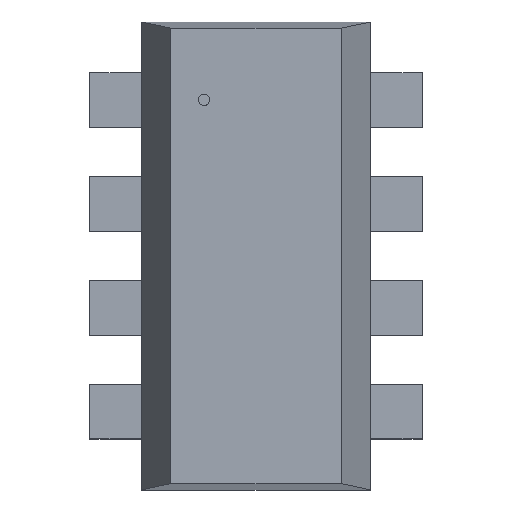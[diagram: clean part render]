
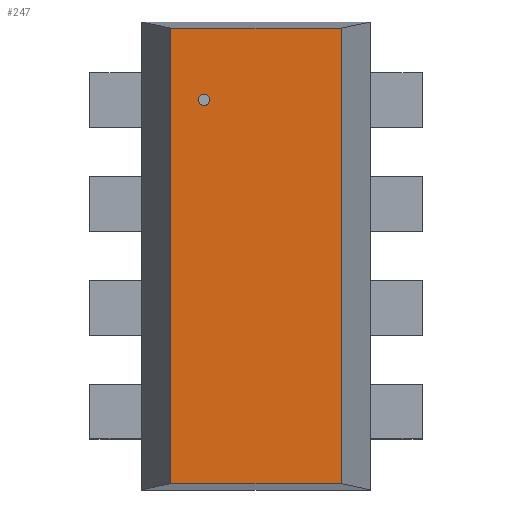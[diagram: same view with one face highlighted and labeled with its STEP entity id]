
A CAD part, top view. The second image highlights one B-rep face of the part: STEP entity #247.
In plain terms, the highlighted planar face has unit normal (0, 0, 1).
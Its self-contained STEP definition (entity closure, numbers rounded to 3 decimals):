
#247=ADVANCED_FACE('',(#253),#248,.T.);
#248=PLANE('',#249);
#249=AXIS2_PLACEMENT_3D('',#250,#251,#252);
#250=CARTESIAN_POINT('',(1.854,-9.373,5.207));
#251=DIRECTION('',(0.0,0.0,1.0));
#252=DIRECTION('',(0.,1.,0.));
#253=FACE_OUTER_BOUND('',#254,.T.);
#254=EDGE_LOOP('',(#255,#265,#275,#285));
#258=CARTESIAN_POINT('',(6.02,-9.373,5.207));
#257=VERTEX_POINT('',#258);
#260=CARTESIAN_POINT('',(1.854,-9.373,5.207));
#259=VERTEX_POINT('',#260);
#256=EDGE_CURVE('',#257,#259,#261,.T.);
#261=LINE('',#258,#263);
#263=VECTOR('',#264,4.166);
#264=DIRECTION('',(-1.0,0.0,0.0));
#255=ORIENTED_EDGE('',*,*,#256,.F.);
#268=CARTESIAN_POINT('',(6.02,1.753,5.207));
#267=VERTEX_POINT('',#268);
#266=EDGE_CURVE('',#267,#257,#271,.T.);
#271=LINE('',#268,#273);
#273=VECTOR('',#274,11.125);
#274=DIRECTION('',(0.0,-1.0,0.0));
#265=ORIENTED_EDGE('',*,*,#266,.F.);
#278=CARTESIAN_POINT('',(1.854,1.753,5.207));
#277=VERTEX_POINT('',#278);
#276=EDGE_CURVE('',#277,#267,#281,.T.);
#281=LINE('',#278,#283);
#283=VECTOR('',#284,4.166);
#284=DIRECTION('',(1.0,0.0,0.0));
#275=ORIENTED_EDGE('',*,*,#276,.F.);
#286=EDGE_CURVE('',#259,#277,#291,.T.);
#291=LINE('',#260,#293);
#293=VECTOR('',#294,11.125);
#294=DIRECTION('',(0.0,1.0,0.0));
#285=ORIENTED_EDGE('',*,*,#286,.F.);
